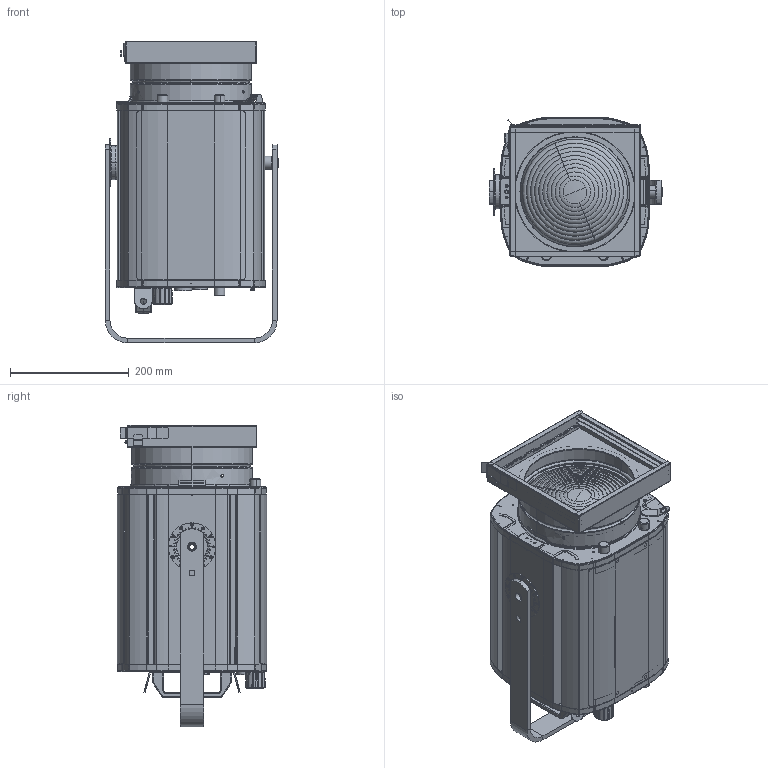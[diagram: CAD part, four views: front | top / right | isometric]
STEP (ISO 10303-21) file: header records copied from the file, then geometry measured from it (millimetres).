
FILE_DESCRIPTION (( 'STEP AP214' ), '1' );
FILE_NAME ('315.STEP', '2024-10-07T09:03:12', ( '' ), ( '' ), 'SwSTEP 2.0', 'SolidWorks 2023', '' );
FILE_SCHEMA (( 'AUTOMOTIVE_DESIGN' ));
Length unit declared in the file: millimetre
Products named in the file (13): Bouton RJ; 400326 Canon de fourche_Rep 05; bouchon_Rep 01 lg 14; CPU; Poignee; IHM; Capot aerifere supérieur_Rep 00; Boitier Cartes CPU & Drivers; lentille fresnel; PowerCON; 315; Carrosserie pré équipée; Fourche
Assembly tree (15 placements, depth 2):
  315
    Carrosserie pré équipée
    Capot aerifere supérieur_Rep 00  x2
    Boitier Cartes CPU & Drivers
    CPU
    Poignee
    PowerCON
    bouchon_Rep 01 lg 14  x3
    Bouton RJ
    IHM
    lentille fresnel
    Fourche
    400326 Canon de fourche_Rep 05
Bounding box: 291.9 x 250.8 x 507.4 mm (x, y, z)
Volume: 1333662.1 mm3; surface area: 1470274.7 mm2
Topology: 77 solids, 77 shells, 3499 faces, 8431 edges, 5287 vertices
Faces by surface type: plane 1663, cylinder 1027, torus 310, bspline 300, cone 171, sphere 28
Entity records: 125293 total; most frequent: CARTESIAN_POINT 43614, DIRECTION 16762, ORIENTED_EDGE 16580, EDGE_CURVE 8290, AXIS2_PLACEMENT_3D 6015, VERTEX_POINT 5229, LINE 4732, VECTOR 4732
